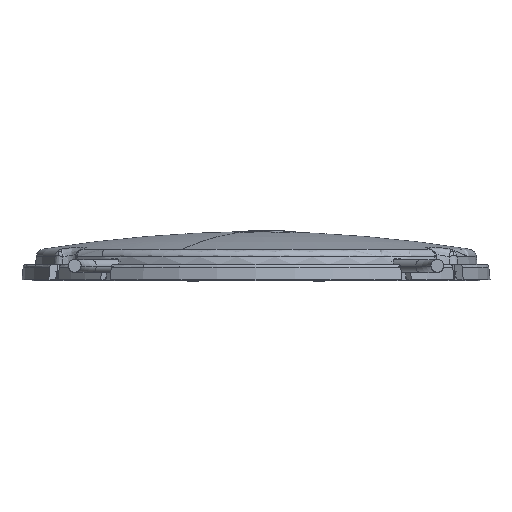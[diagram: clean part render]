
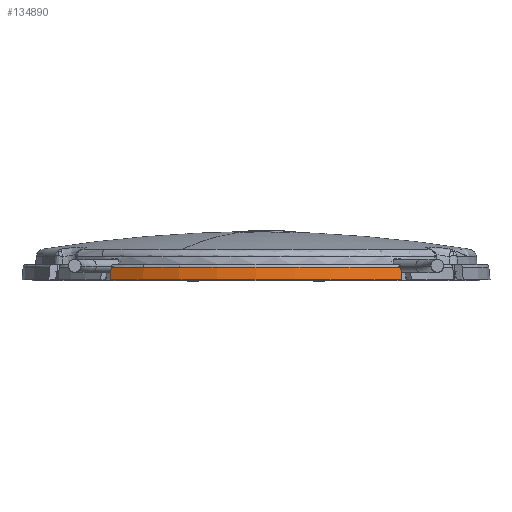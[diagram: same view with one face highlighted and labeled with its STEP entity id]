
A CAD part, front view. The second image highlights one B-rep face of the part: STEP entity #134890.
In plain terms, the highlighted conical face has half-angle 5 degrees and reference radius 40.75 mm.
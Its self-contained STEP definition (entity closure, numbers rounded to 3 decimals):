
#39510=CARTESIAN_POINT('',(-1.322,281.327,
8.034));
#39520=DIRECTION('',(-0.342,0.,
0.94));
#39530=DIRECTION('',(-0.94,0.,
-0.342));
#39540=AXIS2_PLACEMENT_3D('',#39510,#39520,#39530);
#39550=PLANE('',#39540);
#39860=CARTESIAN_POINT('',(-47.15,281.327,
28.739));
#39870=DIRECTION('',(0.985,0.,
0.174));
#39880=DIRECTION('',(-0.174,0.,
0.985));
#39890=AXIS2_PLACEMENT_3D('',#39860,#39870,#39880);
#39900=PLANE('',#39890);
#77840=CARTESIAN_POINT('',(-47.768,282.962,
32.244));
#77850=VERTEX_POINT('',#77840);
#77880=CARTESIAN_POINT('',(-41.811,280.76,
-7.874));
#77890=DIRECTION('',(0.,-1.,0.));
#77900=DIRECTION('',(-0.051,0.,
-0.999));
#77910=AXIS2_PLACEMENT_3D('',#77880,#77890,#77900);
#77920=CONICAL_SURFACE('',#77910,40.75,0.087);
#77930=CARTESIAN_POINT('',(-47.802,280.76,
32.433));
#77940=CARTESIAN_POINT('',(-47.8,280.852,
32.425));
#77950=CARTESIAN_POINT('',(-47.799,280.943,
32.417));
#77960=CARTESIAN_POINT('',(-47.797,281.035,
32.41));
#77970=CARTESIAN_POINT('',(-47.796,281.127,
32.402));
#77980=CARTESIAN_POINT('',(-47.795,281.219,
32.394));
#77990=CARTESIAN_POINT('',(-47.793,281.31,
32.386));
#78000=CARTESIAN_POINT('',(-47.79,281.494,
32.37));
#78010=CARTESIAN_POINT('',(-47.788,281.677,
32.354));
#78020=CARTESIAN_POINT('',(-47.785,281.861,
32.338));
#78030=CARTESIAN_POINT('',(-47.782,282.044,
32.323));
#78040=CARTESIAN_POINT('',(-47.779,282.228,
32.307));
#78050=CARTESIAN_POINT('',(-47.776,282.411,
32.291));
#78060=CARTESIAN_POINT('',(-47.774,282.595,
32.275));
#78070=CARTESIAN_POINT('',(-47.771,282.778,
32.259));
#78080=CARTESIAN_POINT('',(-47.768,282.962,
32.244));
#78090=B_SPLINE_CURVE_WITH_KNOTS('',3,(#77930,#77940,#77950,#77960,
#77970,#77980,#77990,#78000,#78010,#78020,#78030,#78040,#78050,#78060,
#78070,#78080),.UNSPECIFIED.,.F.,.F.,(4,3,3,3,3,4),(0.,0.276
,0.553,1.105,1.658,2.21),
.UNSPECIFIED.);
#78100=SURFACE_CURVE('',#78090,(#77920,#39900),.CURVE_3D.);
#78110=CARTESIAN_POINT('',(-47.802,280.76,
32.433));
#78120=VERTEX_POINT('',#78110);
#78130=EDGE_CURVE('',#78120,#77850,#78100,.T.);
#95500=CARTESIAN_POINT('',(-4.09,282.962,
7.026));
#95510=VERTEX_POINT('',#95500);
#95540=CARTESIAN_POINT('',(-41.811,282.962,
-7.874));
#95550=DIRECTION('',(0.,-1.,0.));
#95560=DIRECTION('',(0.,0.,1.));
#95570=AXIS2_PLACEMENT_3D('',#95540,#95550,#95560);
#95580=CIRCLE('',#95570,40.557);
#95590=EDGE_CURVE('',#95510,#77850,#95580,.T.);
#134530=CARTESIAN_POINT('',(-4.09,282.962,
7.026));
#134540=CARTESIAN_POINT('',(-4.082,282.87,
7.029));
#134550=CARTESIAN_POINT('',(-4.075,282.778,
7.031));
#134560=CARTESIAN_POINT('',(-4.067,282.686,
7.034));
#134570=CARTESIAN_POINT('',(-4.06,282.595,
7.037));
#134580=CARTESIAN_POINT('',(-4.052,282.503,
7.04));
#134590=CARTESIAN_POINT('',(-4.045,282.411,
7.042));
#134600=CARTESIAN_POINT('',(-4.03,282.228,
7.048));
#134610=CARTESIAN_POINT('',(-4.015,282.044,
7.053));
#134620=CARTESIAN_POINT('',(-3.999,281.861,
7.059));
#134630=CARTESIAN_POINT('',(-3.984,281.677,
7.064));
#134640=CARTESIAN_POINT('',(-3.969,281.494,
7.07));
#134650=CARTESIAN_POINT('',(-3.954,281.31,
7.075));
#134660=CARTESIAN_POINT('',(-3.947,281.219,
7.078));
#134670=CARTESIAN_POINT('',(-3.939,281.127,
7.081));
#134680=CARTESIAN_POINT('',(-3.932,281.035,
7.084));
#134690=CARTESIAN_POINT('',(-3.924,280.943,
7.086));
#134700=CARTESIAN_POINT('',(-3.917,280.852,
7.089));
#134710=CARTESIAN_POINT('',(-3.909,280.76,
7.092));
#134720=B_SPLINE_CURVE_WITH_KNOTS('',3,(#134530,#134540,#134550,#134560,
#134570,#134580,#134590,#134600,#134610,#134620,#134630,#134640,#134650,
#134660,#134670,#134680,#134690,#134700,#134710),.UNSPECIFIED.,.F.,.F.,(
4,3,3,3,3,3,4),(0.,0.276,0.553,1.105,
1.658,1.934,2.21),.UNSPECIFIED.);
#134730=SURFACE_CURVE('',#134720,(#77920,#39550),.CURVE_3D.);
#134740=CARTESIAN_POINT('',(-3.909,280.76,
7.092));
#134750=VERTEX_POINT('',#134740);
#134760=EDGE_CURVE('',#95510,#134750,#134730,.T.);
#134770=ORIENTED_EDGE('',*,*,#134760,.F.);
#134780=CARTESIAN_POINT('',(-41.811,280.76,
-7.874));
#134790=DIRECTION('',(0.,-1.,0.));
#134800=DIRECTION('',(-0.051,0.,
-0.999));
#134810=AXIS2_PLACEMENT_3D('',#134780,#134790,#134800);
#134820=CIRCLE('',#134810,40.75);
#134830=EDGE_CURVE('',#134750,#78120,#134820,.T.);
#134840=ORIENTED_EDGE('',*,*,#134830,.F.);
#134850=ORIENTED_EDGE('',*,*,#78130,.F.);
#134860=ORIENTED_EDGE('',*,*,#95590,.T.);
#134870=EDGE_LOOP('',(#134860,#134850,#134840,#134770));
#134880=FACE_OUTER_BOUND('',#134870,.T.);
#134890=ADVANCED_FACE('',(#134880),#77920,.T.);
